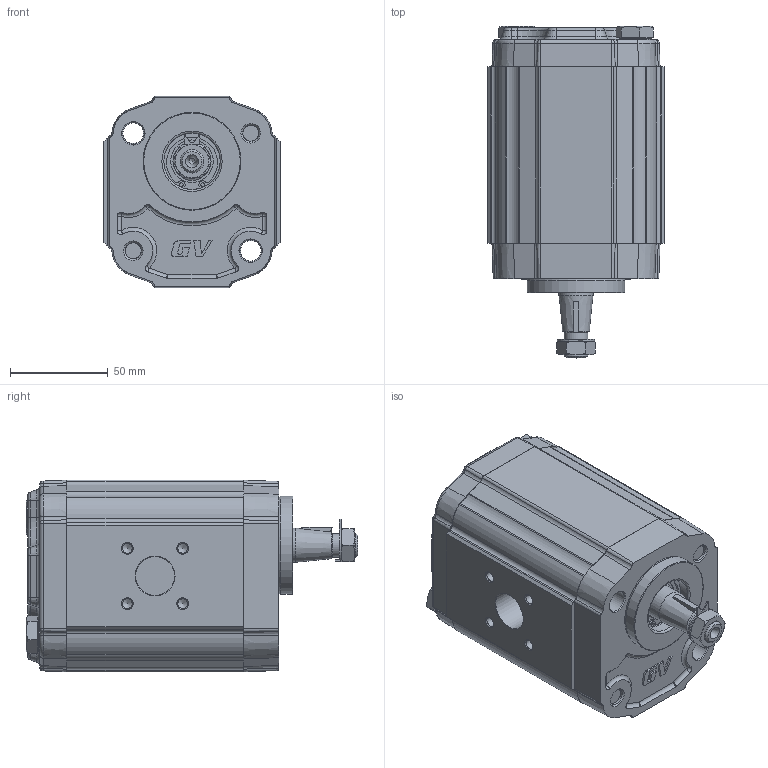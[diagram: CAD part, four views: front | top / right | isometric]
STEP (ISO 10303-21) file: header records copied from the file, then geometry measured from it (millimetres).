
FILE_DESCRIPTION(/* description */ ('Unknown'),/* implementation_level */ '2;1');
FILE_NAME(/* name */ 'G2P5922FSSA',/* time_stamp */ '2026-06-03T17:56:44+02:00',/* author */ ('Unknown'),/* organization */ ('Unknown'),/* preprocessor_version */ 'ST-DEVELOPER v16.7',/* originating_system */ 'Solid Edge',/* authorisation */ 'Unknown');
FILE_SCHEMA (('AUTOMOTIVE_DESIGN {1 0 10303 214 3 1 1}'));
Length unit declared in the file: millimetre
Products named in the file (5): G2P5922FSSA; G2P22; 2F; G2SSH90; GP213-A
Assembly tree (4 placements, depth 2):
  G2P5922FSSA
    G2P22
    2F
    G2SSH90
    GP213-A
Bounding box: 90 x 169.55 x 98 mm (x, y, z)
Volume: 940654.9 mm3; surface area: 116560.6 mm2
Topology: 4 solids, 5 shells, 735 faces, 2294 edges, 1442 vertices
Faces by surface type: cylinder 264, plane 251, cone 108, bspline 56, torus 46, sphere 10
Full cylindrical faces by diameter (mm): 2 x2, 5 x8, 8.376 x2, 9.9 x2, 10 x2, 10.5 x8, 11 x2, 12 x2, 12.5 x1, 15.8 x2, 16 x2, 17.42 x1, 17.48 x2, 18 x4, 18.724 x1, 20 x2, 20.595 x1, 21.741 x1, 25.834 x1, 28.56 x1, 28.57 x1, 28.8 x1, 30.5 x1, 50 x1
Entity records: 35225 total; most frequent: CARTESIAN_POINT 10231, ORIENTED_EDGE 4276, DIRECTION 3969, EDGE_CURVE 2138, AXIS2_PLACEMENT_3D 1521, VERTEX_POINT 1403, FACE_BOUND 947, EDGE_LOOP 937
